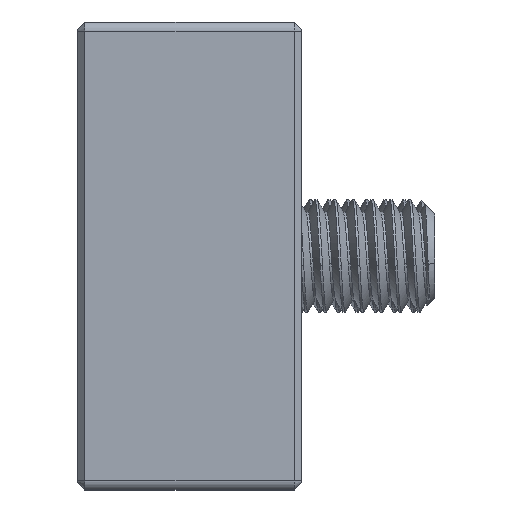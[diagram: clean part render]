
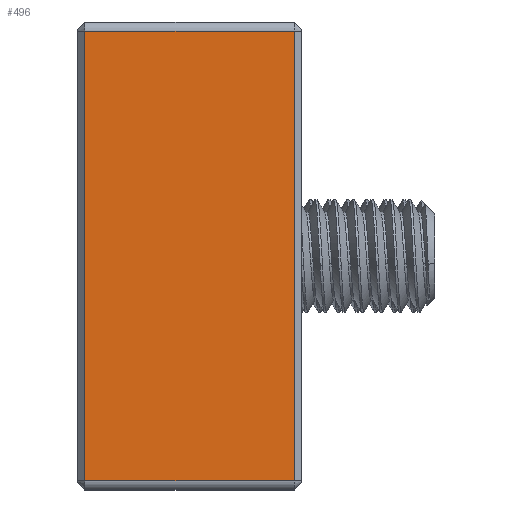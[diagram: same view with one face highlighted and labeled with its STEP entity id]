
A CAD part, left-side view. The second image highlights one B-rep face of the part: STEP entity #496.
In plain terms, the highlighted planar face has unit normal (-1, 0, 0).
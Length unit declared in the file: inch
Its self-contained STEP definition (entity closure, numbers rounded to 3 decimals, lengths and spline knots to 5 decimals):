
#19 = DIRECTION ( 'NONE',  ( -1., 0., 0. ) ) ;
#203 = CARTESIAN_POINT ( 'NONE',  ( -0.3125, 0., -0.47244 ) ) ;
#258 = DIRECTION ( 'NONE',  ( 0., -1., 0. ) ) ;
#372 = DIRECTION ( 'NONE',  ( 0., 0., -1. ) ) ;
#413 = VECTOR ( 'NONE', #2669, 39.37008 ) ;
#417 = VECTOR ( 'NONE', #258, 39.37008 ) ;
#496 = ADVANCED_FACE ( 'NONE', ( #1269 ), #4507, .T. ) ;
#816 = EDGE_CURVE ( 'NONE', #2809, #3310, #2664, .T. ) ;
#1269 = FACE_OUTER_BOUND ( 'NONE', #1602, .T. ) ;
#1505 = VECTOR ( 'NONE', #4808, 39.37008 ) ;
#1545 = ORIENTED_EDGE ( 'NONE', *, *, #1615, .T. ) ;
#1602 = EDGE_LOOP ( 'NONE', ( #1545, #2991, #3725, #1970 ) ) ;
#1615 = EDGE_CURVE ( 'NONE', #1885, #2809, #4226, .T. ) ;
#1704 = CARTESIAN_POINT ( 'NONE',  ( -0.3125, 0.45669, -0.47244 ) ) ;
#1885 = VERTEX_POINT ( 'NONE', #2716 ) ;
#1970 = ORIENTED_EDGE ( 'NONE', *, *, #2390, .T. ) ;
#2276 = CARTESIAN_POINT ( 'NONE',  ( -0.3125, 0.47244, 0.47244 ) ) ;
#2390 = EDGE_CURVE ( 'NONE', #3206, #1885, #4887, .T. ) ;
#2664 = LINE ( 'NONE', #4297, #4363 ) ;
#2669 = DIRECTION ( 'NONE',  ( 0., 1., 0. ) ) ;
#2716 = CARTESIAN_POINT ( 'NONE',  ( -0.3125, 0.01575, 0.47244 ) ) ;
#2809 = VERTEX_POINT ( 'NONE', #3034 ) ;
#2883 = CARTESIAN_POINT ( 'NONE',  ( -0.3125, 0.01575, 0.47244 ) ) ;
#2991 = ORIENTED_EDGE ( 'NONE', *, *, #816, .T. ) ;
#3034 = CARTESIAN_POINT ( 'NONE',  ( -0.3125, 0.45669, 0.47244 ) ) ;
#3206 = VERTEX_POINT ( 'NONE', #4986 ) ;
#3219 = CARTESIAN_POINT ( 'NONE',  ( -0.3125, 0., 0. ) ) ;
#3310 = VERTEX_POINT ( 'NONE', #1704 ) ;
#3598 = AXIS2_PLACEMENT_3D ( 'NONE', #3219, #19, #4882 ) ;
#3725 = ORIENTED_EDGE ( 'NONE', *, *, #4157, .T. ) ;
#4157 = EDGE_CURVE ( 'NONE', #3310, #3206, #4734, .T. ) ;
#4226 = LINE ( 'NONE', #2276, #413 ) ;
#4297 = CARTESIAN_POINT ( 'NONE',  ( -0.3125, 0.45669, -0.47244 ) ) ;
#4363 = VECTOR ( 'NONE', #372, 39.37008 ) ;
#4507 = PLANE ( 'NONE',  #3598 ) ;
#4734 = LINE ( 'NONE', #203, #417 ) ;
#4808 = DIRECTION ( 'NONE',  ( 0., 0., 1. ) ) ;
#4882 = DIRECTION ( 'NONE',  ( 0., 0., 1. ) ) ;
#4887 = LINE ( 'NONE', #2883, #1505 ) ;
#4986 = CARTESIAN_POINT ( 'NONE',  ( -0.3125, 0.01575, -0.47244 ) ) ;
